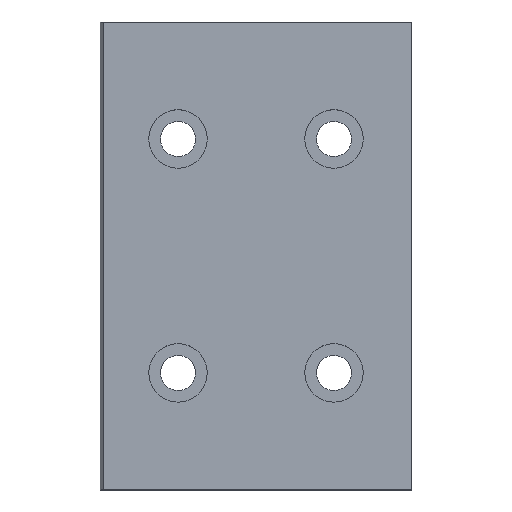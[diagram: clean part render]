
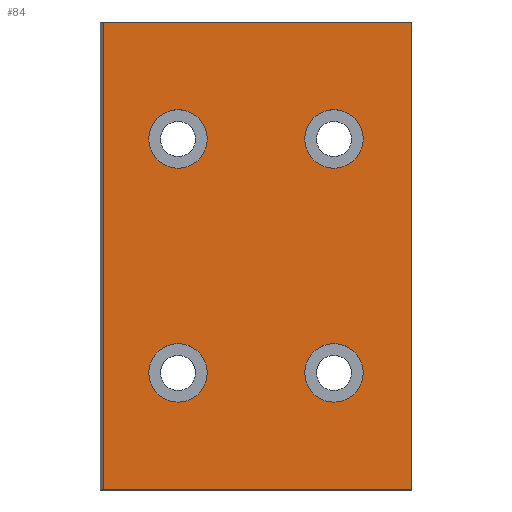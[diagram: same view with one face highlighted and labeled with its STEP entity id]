
A CAD part, top view. The second image highlights one B-rep face of the part: STEP entity #84.
In plain terms, the highlighted planar face has unit normal (0, 0, 1).
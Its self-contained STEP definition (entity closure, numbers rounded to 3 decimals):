
#84=ADVANCED_FACE('',(#336,#338,#340,#342,#344),#346,.T.);
#336=FACE_BOUND('',#337,.T.);
#337=EDGE_LOOP('',(#562,#563,#564,#565));
#338=FACE_BOUND('',#339,.T.);
#339=EDGE_LOOP('',(#566));
#340=FACE_BOUND('',#341,.T.);
#341=EDGE_LOOP('',(#567));
#342=FACE_BOUND('',#343,.T.);
#343=EDGE_LOOP('',(#568));
#344=FACE_BOUND('',#345,.T.);
#345=EDGE_LOOP('',(#569));
#346=PLANE('',#347);
#347=AXIS2_PLACEMENT_3D('',#348,#349,#350);
#348=CARTESIAN_POINT('',(0.,0.,18.));
#349=DIRECTION('',(0.,0.,1.));
#350=DIRECTION('',(-1.,0.,0.));
#562=ORIENTED_EDGE('',*,*,#642,.T.);
#563=ORIENTED_EDGE('',*,*,#643,.T.);
#564=ORIENTED_EDGE('',*,*,#644,.T.);
#565=ORIENTED_EDGE('',*,*,#645,.T.);
#566=ORIENTED_EDGE('',*,*,#646,.T.);
#567=ORIENTED_EDGE('',*,*,#647,.T.);
#568=ORIENTED_EDGE('',*,*,#648,.T.);
#569=ORIENTED_EDGE('',*,*,#649,.T.);
#642=EDGE_CURVE('',#690,#691,#692,.T.);
#643=EDGE_CURVE('',#691,#693,#694,.T.);
#644=EDGE_CURVE('',#693,#695,#696,.T.);
#645=EDGE_CURVE('',#695,#690,#697,.T.);
#646=EDGE_CURVE('',#698,#698,#699,.F.);
#647=EDGE_CURVE('',#700,#700,#701,.F.);
#648=EDGE_CURVE('',#702,#702,#703,.F.);
#649=EDGE_CURVE('',#704,#704,#705,.F.);
#690=VERTEX_POINT('',#789);
#691=VERTEX_POINT('',#790);
#692=LINE('',#791,#792);
#693=VERTEX_POINT('',#794);
#694=LINE('',#795,#796);
#695=VERTEX_POINT('',#798);
#696=LINE('',#799,#800);
#697=LINE('',#802,#803);
#698=VERTEX_POINT('',#805);
#699=CIRCLE('',#806,7.5);
#700=VERTEX_POINT('',#810);
#701=CIRCLE('',#811,7.5);
#702=VERTEX_POINT('',#815);
#703=CIRCLE('',#816,7.5);
#704=VERTEX_POINT('',#820);
#705=CIRCLE('',#821,7.5);
#789=CARTESIAN_POINT('',(-39.,60.,18.));
#790=CARTESIAN_POINT('',(-39.,-60.,18.));
#791=CARTESIAN_POINT('',(-39.,60.,18.));
#792=VECTOR('',#793,1.);
#793=DIRECTION('',(0.,-1.,0.));
#794=CARTESIAN_POINT('',(40.,-60.,18.));
#795=CARTESIAN_POINT('',(-39.,-60.,18.));
#796=VECTOR('',#797,1.);
#797=DIRECTION('',(1.,0.,0.));
#798=CARTESIAN_POINT('',(40.,60.,18.));
#799=CARTESIAN_POINT('',(40.,-60.,18.));
#800=VECTOR('',#801,1.);
#801=DIRECTION('',(0.,1.,0.));
#802=CARTESIAN_POINT('',(40.,60.,18.));
#803=VECTOR('',#804,1.);
#804=DIRECTION('',(-1.,0.,0.));
#805=CARTESIAN_POINT('',(-20.,-22.5,18.));
#806=AXIS2_PLACEMENT_3D('',#807,#808,#809);
#807=CARTESIAN_POINT('',(-20.,-30.,18.));
#808=DIRECTION('',(0.,0.,1.));
#809=DIRECTION('',(0.,1.,0.));
#810=CARTESIAN_POINT('',(20.,37.5,18.));
#811=AXIS2_PLACEMENT_3D('',#812,#813,#814);
#812=CARTESIAN_POINT('',(20.,30.,18.));
#813=DIRECTION('',(0.,0.,1.));
#814=DIRECTION('',(0.,1.,0.));
#815=CARTESIAN_POINT('',(20.,-22.5,18.));
#816=AXIS2_PLACEMENT_3D('',#817,#818,#819);
#817=CARTESIAN_POINT('',(20.,-30.,18.));
#818=DIRECTION('',(0.,0.,1.));
#819=DIRECTION('',(0.,1.,0.));
#820=CARTESIAN_POINT('',(-20.,37.5,18.));
#821=AXIS2_PLACEMENT_3D('',#822,#823,#824);
#822=CARTESIAN_POINT('',(-20.,30.,18.));
#823=DIRECTION('',(0.,0.,1.));
#824=DIRECTION('',(0.,1.,0.));
